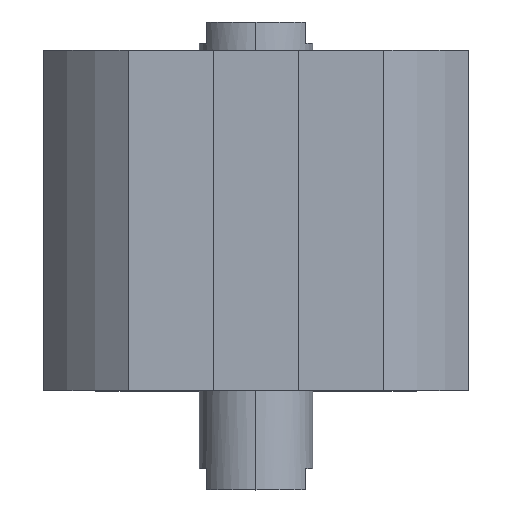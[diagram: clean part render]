
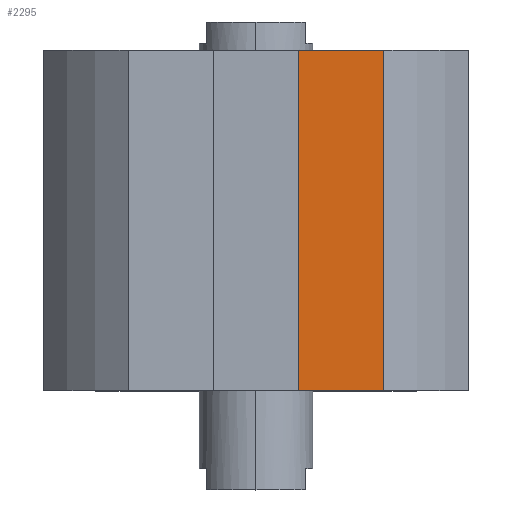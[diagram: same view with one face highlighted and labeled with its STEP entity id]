
A CAD part, top view. The second image highlights one B-rep face of the part: STEP entity #2295.
In plain terms, the highlighted planar face has unit normal (0, 0, 1).
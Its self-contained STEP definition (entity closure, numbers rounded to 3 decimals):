
#45 = CARTESIAN_POINT ( 'NONE',  ( 18.028, -48., 30. ) ) ;
#78 = CARTESIAN_POINT ( 'NONE',  ( 6., -48., 30. ) ) ;
#162 = AXIS2_PLACEMENT_3D ( 'NONE', #2361, #608, #901 ) ;
#237 = FACE_OUTER_BOUND ( 'NONE', #897, .T. ) ;
#298 = VECTOR ( 'NONE', #3871, 1000. ) ;
#310 = CARTESIAN_POINT ( 'NONE',  ( 6., -48., 30. ) ) ;
#608 = DIRECTION ( 'NONE',  ( 0., 0., 1. ) ) ;
#862 = EDGE_CURVE ( 'NONE', #1709, #1492, #4183, .T. ) ;
#897 = EDGE_LOOP ( 'NONE', ( #2636, #1596, #1206, #3952 ) ) ;
#901 = DIRECTION ( 'NONE',  ( 1., 0., 0. ) ) ;
#1206 = ORIENTED_EDGE ( 'NONE', *, *, #3945, .T. ) ;
#1483 = LINE ( 'NONE', #4359, #3060 ) ;
#1492 = VERTEX_POINT ( 'NONE', #3463 ) ;
#1532 = DIRECTION ( 'NONE',  ( 1., 0., 0. ) ) ;
#1596 = ORIENTED_EDGE ( 'NONE', *, *, #862, .F. ) ;
#1709 = VERTEX_POINT ( 'NONE', #78 ) ;
#2172 = LINE ( 'NONE', #45, #298 ) ;
#2295 = ADVANCED_FACE ( 'NONE', ( #237 ), #2380, .T. ) ;
#2361 = CARTESIAN_POINT ( 'NONE',  ( 0., -48., 30. ) ) ;
#2380 = PLANE ( 'NONE',  #162 ) ;
#2473 = DIRECTION ( 'NONE',  ( 1., 0., 0. ) ) ;
#2534 = EDGE_CURVE ( 'NONE', #4276, #2924, #2172, .T. ) ;
#2636 = ORIENTED_EDGE ( 'NONE', *, *, #4429, .F. ) ;
#2804 = VECTOR ( 'NONE', #2473, 1000. ) ;
#2907 = CARTESIAN_POINT ( 'NONE',  ( 18.028, -48., 30. ) ) ;
#2924 = VERTEX_POINT ( 'NONE', #3277 ) ;
#2965 = LINE ( 'NONE', #3920, #2804 ) ;
#3060 = VECTOR ( 'NONE', #1532, 1000. ) ;
#3216 = VECTOR ( 'NONE', #4496, 1000. ) ;
#3277 = CARTESIAN_POINT ( 'NONE',  ( 18.028, 0., 30. ) ) ;
#3463 = CARTESIAN_POINT ( 'NONE',  ( 6., 0., 30. ) ) ;
#3871 = DIRECTION ( 'NONE',  ( 0., 1., 0. ) ) ;
#3920 = CARTESIAN_POINT ( 'NONE',  ( 0., -48., 30. ) ) ;
#3945 = EDGE_CURVE ( 'NONE', #1709, #4276, #2965, .T. ) ;
#3952 = ORIENTED_EDGE ( 'NONE', *, *, #2534, .T. ) ;
#4183 = LINE ( 'NONE', #310, #3216 ) ;
#4276 = VERTEX_POINT ( 'NONE', #2907 ) ;
#4359 = CARTESIAN_POINT ( 'NONE',  ( 0., 0., 30. ) ) ;
#4429 = EDGE_CURVE ( 'NONE', #1492, #2924, #1483, .T. ) ;
#4496 = DIRECTION ( 'NONE',  ( 0., 1., 0. ) ) ;
